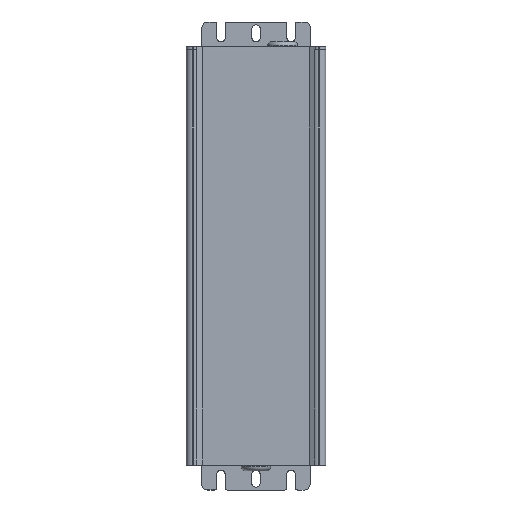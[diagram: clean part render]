
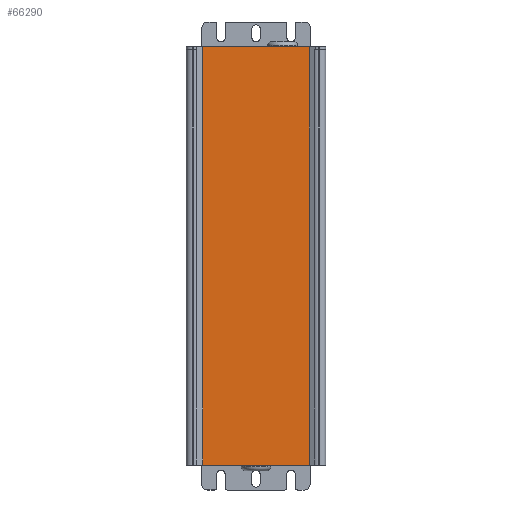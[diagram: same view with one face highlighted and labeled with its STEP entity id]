
A CAD part, left-side view. The second image highlights one B-rep face of the part: STEP entity #66290.
In plain terms, the highlighted planar face has unit normal (-1, 0, 0) as drawn and (0, 1, 0) by its records, which use the part's own axes.
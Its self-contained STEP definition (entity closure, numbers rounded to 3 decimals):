
#3590=CARTESIAN_POINT('',(2003.285,-2415.053,
14.6));
#3600=VERTEX_POINT('',#3590);
#3630=CARTESIAN_POINT('',(1951.285,-2415.053,
14.6));
#3640=DIRECTION('',(1.,0.,0.));
#3650=VECTOR('',#3640,1.);
#3660=LINE('',#3630,#3650);
#3670=CARTESIAN_POINT('',(1951.285,-2415.053,
14.6));
#3680=VERTEX_POINT('',#3670);
#3690=EDGE_CURVE('',#3680,#3600,#3660,.T.);
#21760=CARTESIAN_POINT('',(1951.235,-2415.053,
218.6));
#21770=VERTEX_POINT('',#21760);
#21800=CARTESIAN_POINT('',(2003.235,-2415.053,
218.6));
#21810=DIRECTION('',(-1.,0.,0.));
#21820=VECTOR('',#21810,1.);
#21830=LINE('',#21800,#21820);
#21840=CARTESIAN_POINT('',(2003.247,-2415.075,
218.6));
#21850=VERTEX_POINT('',#21840);
#21860=EDGE_CURVE('',#21850,#21770,#21830,.T.);
#65520=CARTESIAN_POINT('',(1951.285,-2415.053,15.));
#65530=DIRECTION('',(0.,1.,0.));
#65540=DIRECTION('',(1.,0.,0.));
#65550=AXIS2_PLACEMENT_3D('',#65520,#65530,#65540);
#65560=PLANE('',#65550);
#65570=ORIENTED_EDGE('',*,*,#3690,.F.);
#65580=CARTESIAN_POINT('',(2003.285,-2415.053,
14.6));
#65590=DIRECTION('',(0.,0.,
1.));
#65600=VECTOR('',#65590,1.);
#65610=LINE('',#65580,#65600);
#65620=CARTESIAN_POINT('',(2003.285,-2415.053,16.2));
#65630=VERTEX_POINT('',#65620);
#65640=EDGE_CURVE('',#3600,#65630,#65610,.T.);
#65650=ORIENTED_EDGE('',*,*,#65640,.F.);
#65660=CARTESIAN_POINT('',(2003.285,-2415.053,16.2));
#65670=DIRECTION('',(0.,0.,1.));
#65680=VECTOR('',#65670,1.);
#65690=LINE('',#65660,#65680);
#65700=CARTESIAN_POINT('',(2003.285,-2415.053,
30.769));
#65710=VERTEX_POINT('',#65700);
#65720=EDGE_CURVE('',#65630,#65710,#65690,.T.);
#65730=ORIENTED_EDGE('',*,*,#65720,.F.);
#65740=CARTESIAN_POINT('',(2003.285,-2415.053,0.));
#65750=DIRECTION('',(0.,0.,-1.));
#65760=VECTOR('',#65750,1.);
#65770=LINE('',#65740,#65760);
#65780=CARTESIAN_POINT('',(2003.285,-2415.053,
46.969));
#65790=VERTEX_POINT('',#65780);
#65800=EDGE_CURVE('',#65790,#65710,#65770,.T.);
#65810=ORIENTED_EDGE('',*,*,#65800,.T.);
#65820=CARTESIAN_POINT('',(2003.285,-2415.053,0.));
#65830=DIRECTION('',(0.,0.,1.));
#65840=VECTOR('',#65830,1.);
#65850=LINE('',#65820,#65840);
#65860=CARTESIAN_POINT('',(2003.285,-2415.053,
217.));
#65870=VERTEX_POINT('',#65860);
#65880=EDGE_CURVE('',#65790,#65870,#65850,.T.);
#65890=ORIENTED_EDGE('',*,*,#65880,.F.);
#65900=CARTESIAN_POINT('',(2003.285,-2415.053,
217.));
#65910=DIRECTION('',(-0.866,-0.5,0.));
#65920=VECTOR('',#65910,1.);
#65930=LINE('',#65900,#65920);
#65940=CARTESIAN_POINT('',(2003.241,-2415.053,
217.));
#65950=VERTEX_POINT('',#65940);
#65960=EDGE_CURVE('',#65870,#65950,#65930,.T.);
#65970=ORIENTED_EDGE('',*,*,#65960,.F.);
#65980=CARTESIAN_POINT('',(2003.235,-2415.053,
218.6));
#65990=DIRECTION('',(0.,0.,-1.));
#66000=VECTOR('',#65990,1.);
#66010=LINE('',#65980,#66000);
#66020=EDGE_CURVE('',#21850,#65950,#66010,.T.);
#66030=ORIENTED_EDGE('',*,*,#66020,.T.);
#66040=ORIENTED_EDGE('',*,*,#21860,.F.);
#66050=CARTESIAN_POINT('',(1951.247,-2415.032,
218.6));
#66060=DIRECTION('',(0.,0.,-1.));
#66070=VECTOR('',#66060,1.);
#66080=LINE('',#66050,#66070);
#66090=CARTESIAN_POINT('',(1951.247,-2415.032,217.));
#66100=VERTEX_POINT('',#66090);
#66110=EDGE_CURVE('',#21770,#66100,#66080,.T.);
#66120=ORIENTED_EDGE('',*,*,#66110,.F.);
#66130=CARTESIAN_POINT('',(1951.247,-2415.032,217.));
#66140=DIRECTION('',(0.866,-0.5,0.));
#66150=VECTOR('',#66140,1.);
#66160=LINE('',#66130,#66150);
#66170=CARTESIAN_POINT('',(1951.285,-2415.053,217.));
#66180=VERTEX_POINT('',#66170);
#66190=EDGE_CURVE('',#66100,#66180,#66160,.T.);
#66200=ORIENTED_EDGE('',*,*,#66190,.F.);
#66210=CARTESIAN_POINT('',(1951.285,-2415.053,-1.6));
#66220=DIRECTION('',(0.,0.,1.));
#66230=VECTOR('',#66220,1.);
#66240=LINE('',#66210,#66230);
#66250=EDGE_CURVE('',#3680,#66180,#66240,.T.);
#66260=ORIENTED_EDGE('',*,*,#66250,.T.);
#66270=EDGE_LOOP('',(#66260,#66200,#66120,#66040,#66030,#65970,#65890,
#65810,#65730,#65650,#65570));
#66280=FACE_OUTER_BOUND('',#66270,.T.);
#66290=ADVANCED_FACE('',(#66280),#65560,.T.);
